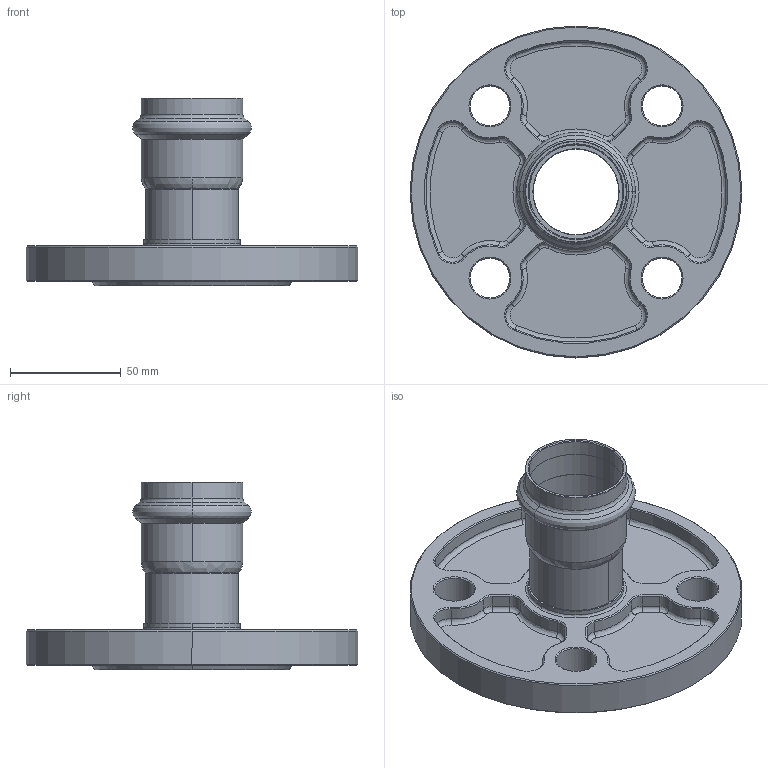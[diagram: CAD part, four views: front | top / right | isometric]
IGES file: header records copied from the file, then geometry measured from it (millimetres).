
Start section: Elysium IGES Interface
Global section: file name: C:\3d modellen sudo\S-Pr VP\SP6500V\6500VW42.igs; native system: CoCreate Modeling 17.00A  17-Jun-2010; preprocessor: CoCreate IGES_3D V2.2; author: Unknown; organization: Unknown; date: 20130129.102652; units: millimetre
Bounding box: 150 x 150 x 84.77 mm (x, y, z)
Volume: 208278.6 mm3; surface area: 68479 mm2
Topology: 1 solids, 1 shells, 275 faces, 606 edges, 350 vertices
Faces by surface type: bspline 275
